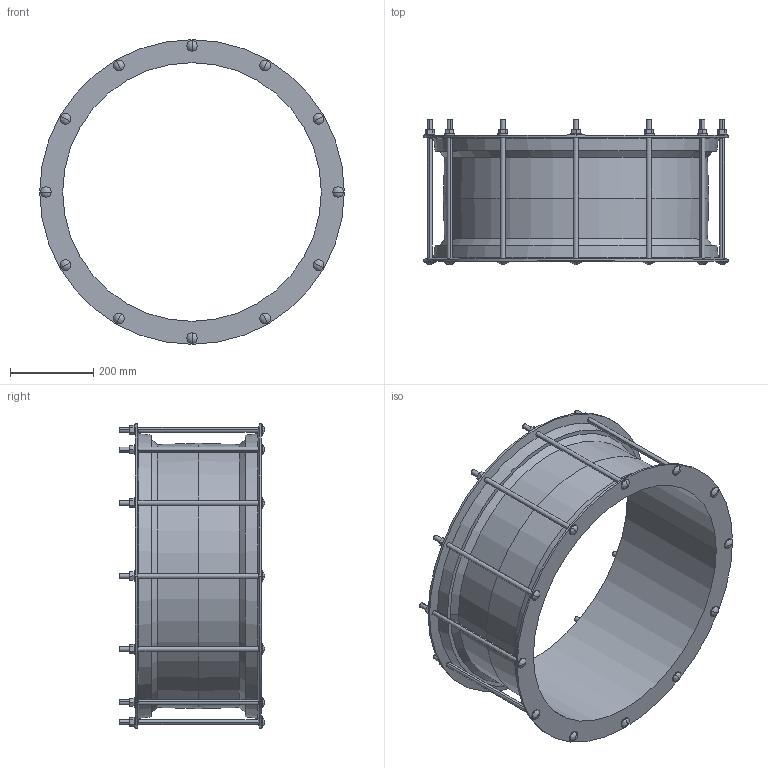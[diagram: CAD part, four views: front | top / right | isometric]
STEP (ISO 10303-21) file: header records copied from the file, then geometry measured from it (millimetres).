
FILE_DESCRIPTION((''),'2;1');
FILE_NAME('MAXIFIT_601_618','2018-12-18T',('mfairey'),('Glynwed Pipe Systems'),'CREO PARAMETRIC BY PTC INC, 2016130','CREO PARAMETRIC BY PTC INC, 2016130','');
FILE_SCHEMA(('CONFIG_CONTROL_DESIGN'));
Length unit declared in the file: millimetre
Products named in the file (1): MAXIFIT_601_618
Bounding box: 730 x 348 x 730 mm (x, y, z)
Volume: 9042344.3 mm3; surface area: 1742606.8 mm2
Topology: 1 solids, 1 shells, 254 faces, 616 edges, 386 vertices
Faces by surface type: plane 112, cylinder 102, bspline 24, cone 16
Entity records: 9146 total; most frequent: CARTESIAN_POINT 3250, DIRECTION 1194, ORIENTED_EDGE 1184, EDGE_CURVE 592, AXIS2_PLACEMENT_3D 428, VERTEX_POINT 386, VECTOR 338, LINE 338
